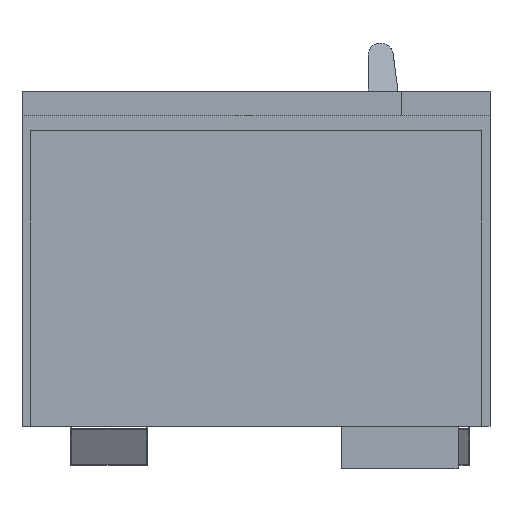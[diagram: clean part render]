
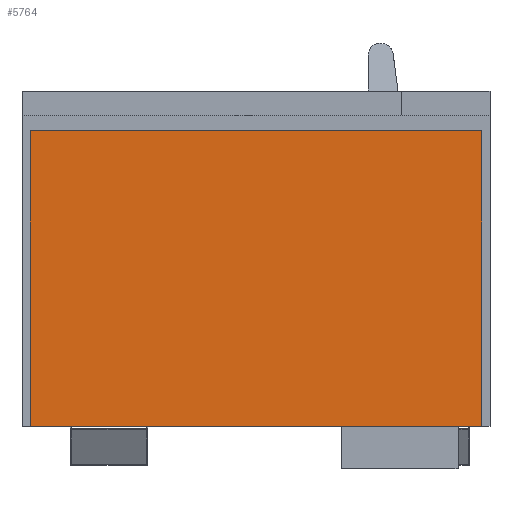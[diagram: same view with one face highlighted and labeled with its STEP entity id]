
A CAD part, front view. The second image highlights one B-rep face of the part: STEP entity #5764.
In plain terms, the highlighted planar face has unit normal (0, -1, 0).
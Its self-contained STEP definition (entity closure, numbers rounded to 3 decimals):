
#31 = VECTOR ( 'NONE', #257, 1000. ) ;
#80 = VECTOR ( 'NONE', #4761, 1000. ) ;
#251 = CARTESIAN_POINT ( 'NONE',  ( 10.5, 0., -51. ) ) ;
#257 = DIRECTION ( 'NONE',  ( 1., 0., 0. ) ) ;
#293 = EDGE_CURVE ( 'NONE', #1172, #1285, #4795, .T. ) ;
#625 = AXIS2_PLACEMENT_3D ( 'NONE', #251, #3602, #750 ) ;
#726 = ORIENTED_EDGE ( 'NONE', *, *, #293, .F. ) ;
#750 = DIRECTION ( 'NONE',  ( 0., 0., 1. ) ) ;
#908 = CARTESIAN_POINT ( 'NONE',  ( 10.5, 0., -51. ) ) ;
#1172 = VERTEX_POINT ( 'NONE', #3546 ) ;
#1285 = VERTEX_POINT ( 'NONE', #2218 ) ;
#1531 = CARTESIAN_POINT ( 'NONE',  ( 10.5, 0., -430. ) ) ;
#1615 = ORIENTED_EDGE ( 'NONE', *, *, #3065, .F. ) ;
#1813 = CARTESIAN_POINT ( 'NONE',  ( 10.5, 0., -430. ) ) ;
#2178 = PLANE ( 'NONE',  #625 ) ;
#2218 = CARTESIAN_POINT ( 'NONE',  ( 589.5, 0., -430. ) ) ;
#2350 = CARTESIAN_POINT ( 'NONE',  ( 589.5, 0., -51. ) ) ;
#2494 = LINE ( 'NONE', #908, #5996 ) ;
#3021 = ORIENTED_EDGE ( 'NONE', *, *, #4264, .T. ) ;
#3025 = EDGE_LOOP ( 'NONE', ( #3021, #726, #1615, #4859 ) ) ;
#3065 = EDGE_CURVE ( 'NONE', #3098, #1172, #3990, .T. ) ;
#3098 = VERTEX_POINT ( 'NONE', #3623 ) ;
#3436 = VECTOR ( 'NONE', #6054, 1000. ) ;
#3546 = CARTESIAN_POINT ( 'NONE',  ( 589.5, 0., -51. ) ) ;
#3602 = DIRECTION ( 'NONE',  ( 0., 1., 0. ) ) ;
#3623 = CARTESIAN_POINT ( 'NONE',  ( 10.5, 0., -51. ) ) ;
#3755 = DIRECTION ( 'NONE',  ( 0., 0., -1. ) ) ;
#3990 = LINE ( 'NONE', #5870, #31 ) ;
#4264 = EDGE_CURVE ( 'NONE', #5956, #1285, #4952, .T. ) ;
#4303 = FACE_OUTER_BOUND ( 'NONE', #3025, .T. ) ;
#4680 = EDGE_CURVE ( 'NONE', #3098, #5956, #2494, .T. ) ;
#4761 = DIRECTION ( 'NONE',  ( 1., 0., 0. ) ) ;
#4795 = LINE ( 'NONE', #2350, #3436 ) ;
#4859 = ORIENTED_EDGE ( 'NONE', *, *, #4680, .T. ) ;
#4952 = LINE ( 'NONE', #1531, #80 ) ;
#5764 = ADVANCED_FACE ( 'NONE', ( #4303 ), #2178, .F. ) ;
#5870 = CARTESIAN_POINT ( 'NONE',  ( 10.5, 0., -51. ) ) ;
#5956 = VERTEX_POINT ( 'NONE', #1813 ) ;
#5996 = VECTOR ( 'NONE', #3755, 1000. ) ;
#6054 = DIRECTION ( 'NONE',  ( 0., 0., -1. ) ) ;
